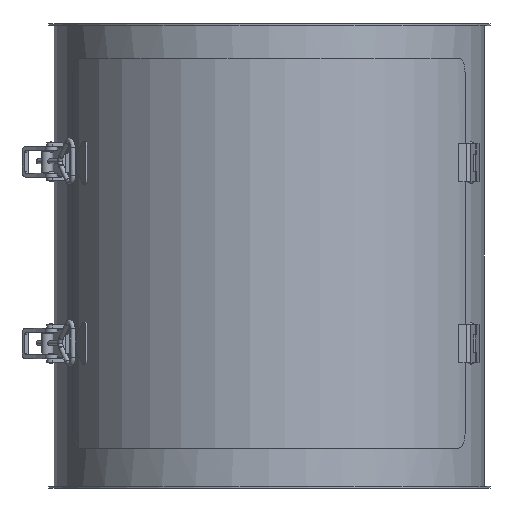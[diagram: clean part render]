
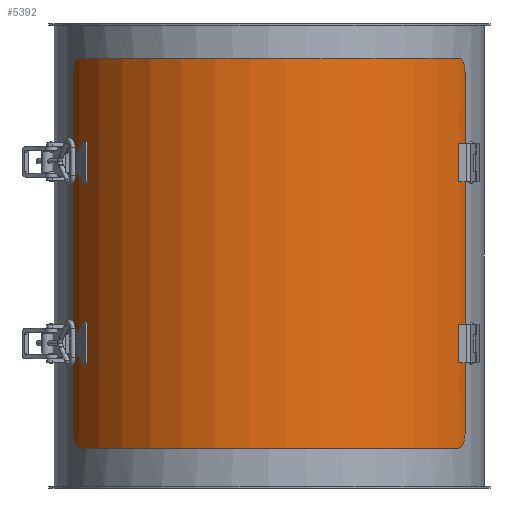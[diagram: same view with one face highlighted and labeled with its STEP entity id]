
A CAD part, front view. The second image highlights one B-rep face of the part: STEP entity #5392.
In plain terms, the highlighted cylindrical face has radius 228 mm (diameter 456 mm), a partial arc.
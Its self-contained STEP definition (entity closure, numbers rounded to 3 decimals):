
#5170=CARTESIAN_POINT('',(149.813,-2.475,372.398));
#5171=VERTEX_POINT('',#5170);
#5178=CARTESIAN_POINT('',(158.93,12.525,360.477));
#5179=VERTEX_POINT('',#5178);
#5180=CARTESIAN_POINT('',(149.813,-2.475,372.398));
#5181=CARTESIAN_POINT('',(149.813,-0.592,372.398));
#5182=CARTESIAN_POINT('',(150.052,1.417,372.107));
#5183=CARTESIAN_POINT('',(151.015,5.113,370.918));
#5184=CARTESIAN_POINT('',(151.739,6.8,370.018));
#5185=CARTESIAN_POINT('',(153.386,9.464,367.923));
#5186=CARTESIAN_POINT('',(154.421,10.619,366.588));
#5187=CARTESIAN_POINT('',(156.089,11.767,364.372));
#5188=CARTESIAN_POINT('',(156.665,12.056,363.598));
#5189=CARTESIAN_POINT('',(157.811,12.435,362.034));
#5190=CARTESIAN_POINT('',(158.382,12.525,361.244));
#5191=CARTESIAN_POINT('',(158.93,12.525,360.477));
#5192=B_SPLINE_CURVE_WITH_KNOTS('',3,(#5180,#5181,#5182,#5183,#5184,#5185,#5186,#5187,#5188,#5189,#5190,#5191),.UNSPECIFIED.,.F.,.U.,(4,2,2,2,2,4),(4.527,5.092,5.657,6.222,6.505,6.788),.UNSPECIFIED.);
#5193=EDGE_CURVE('',#5171,#5179,#5192,.T.);
#5210=CARTESIAN_POINT('',(-11.634,12.525,0.494));
#5211=VERTEX_POINT('',#5210);
#5212=CARTESIAN_POINT('',(-26.634,12.525,228.0));
#5213=DIRECTION('',(0.0,-1.0,0.0));
#5214=DIRECTION('',(0.0,0.0,-1.0));
#5215=AXIS2_PLACEMENT_3D('',#5212,#5213,#5214);
#5216=CIRCLE('',#5215,228.0);
#5217=EDGE_CURVE('',#5211,#5179,#5216,.T.);
#5237=CARTESIAN_POINT('',(-26.634,-397.475,228.0));
#5238=DIRECTION('',(0.,-1.0,0.0));
#5239=DIRECTION('',(0.774,0.0,0.633));
#5240=AXIS2_PLACEMENT_3D('',#5237,#5238,#5239);
#5241=CYLINDRICAL_SURFACE('',#5240,228.0);
#5242=ORIENTED_EDGE('',*,*,#5193,.F.);
#5243=CARTESIAN_POINT('',(149.813,-382.475,372.398));
#5244=VERTEX_POINT('',#5243);
#5245=CARTESIAN_POINT('',(149.813,-2.475,372.398));
#5246=DIRECTION('',(0.0,-1.0,0.0));
#5247=VECTOR('',#5246,380.);
#5248=LINE('',#5245,#5247);
#5249=EDGE_CURVE('',#5171,#5244,#5248,.T.);
#5250=ORIENTED_EDGE('',*,*,#5249,.T.);
#5251=CARTESIAN_POINT('',(158.93,-397.475,360.477));
#5252=VERTEX_POINT('',#5251);
#5253=CARTESIAN_POINT('',(158.93,-397.475,360.477));
#5254=CARTESIAN_POINT('',(158.382,-397.475,361.244));
#5255=CARTESIAN_POINT('',(157.811,-397.385,362.034));
#5256=CARTESIAN_POINT('',(156.665,-397.006,363.598));
#5257=CARTESIAN_POINT('',(156.089,-396.717,364.372));
#5258=CARTESIAN_POINT('',(154.421,-395.569,366.588));
#5259=CARTESIAN_POINT('',(153.386,-394.415,367.923));
#5260=CARTESIAN_POINT('',(151.739,-391.75,370.018));
#5261=CARTESIAN_POINT('',(151.015,-390.063,370.918));
#5262=CARTESIAN_POINT('',(150.052,-386.368,372.107));
#5263=CARTESIAN_POINT('',(149.813,-384.359,372.398));
#5264=CARTESIAN_POINT('',(149.813,-382.475,372.398));
#5265=B_SPLINE_CURVE_WITH_KNOTS('',3,(#5253,#5254,#5255,#5256,#5257,#5258,#5259,#5260,#5261,#5262,#5263,#5264),.UNSPECIFIED.,.F.,.U.,(4,2,2,2,2,4),(2.265,2.548,2.831,3.396,3.962,4.527),.UNSPECIFIED.);
#5266=EDGE_CURVE('',#5252,#5244,#5265,.T.);
#5267=ORIENTED_EDGE('',*,*,#5266,.F.);
#5268=CARTESIAN_POINT('',(-11.634,-397.475,0.494));
#5269=VERTEX_POINT('',#5268);
#5270=CARTESIAN_POINT('',(-26.634,-397.475,228.0));
#5271=DIRECTION('',(0.0,1.0,0.0));
#5272=DIRECTION('',(0.774,0.0,0.633));
#5273=AXIS2_PLACEMENT_3D('',#5270,#5271,#5272);
#5274=CIRCLE('',#5273,228.0);
#5275=EDGE_CURVE('',#5252,#5269,#5274,.T.);
#5276=ORIENTED_EDGE('',*,*,#5275,.T.);
#5277=CARTESIAN_POINT('',(-26.634,-382.475,0.0));
#5278=VERTEX_POINT('',#5277);
#5279=CARTESIAN_POINT('',(-26.634,-382.475,0.));
#5280=CARTESIAN_POINT('',(-26.634,-384.359,0.));
#5281=CARTESIAN_POINT('',(-26.257,-386.368,-0.001));
#5282=CARTESIAN_POINT('',(-24.726,-390.063,0.007));
#5283=CARTESIAN_POINT('',(-23.572,-391.75,0.017));
#5284=CARTESIAN_POINT('',(-20.907,-394.415,0.068));
#5285=CARTESIAN_POINT('',(-19.219,-395.569,0.113));
#5286=CARTESIAN_POINT('',(-16.447,-396.717,0.226));
#5287=CARTESIAN_POINT('',(-15.484,-397.006,0.271));
#5288=CARTESIAN_POINT('',(-13.547,-397.385,0.374));
#5289=CARTESIAN_POINT('',(-12.574,-397.475,0.432));
#5290=CARTESIAN_POINT('',(-11.634,-397.475,0.494));
#5291=B_SPLINE_CURVE_WITH_KNOTS('',3,(#5279,#5280,#5281,#5282,#5283,#5284,#5285,#5286,#5287,#5288,#5289,#5290),.UNSPECIFIED.,.F.,.U.,(4,2,2,2,2,4),(9.053,9.618,10.183,10.749,11.032,11.314),.UNSPECIFIED.);
#5292=EDGE_CURVE('',#5278,#5269,#5291,.T.);
#5293=ORIENTED_EDGE('',*,*,#5292,.F.);
#5294=CARTESIAN_POINT('',(-26.634,-2.475,0.0));
#5295=VERTEX_POINT('',#5294);
#5296=CARTESIAN_POINT('',(-26.634,-382.475,0.0));
#5297=DIRECTION('',(0.0,1.0,0.0));
#5298=VECTOR('',#5297,380.);
#5299=LINE('',#5296,#5298);
#5300=EDGE_CURVE('',#5278,#5295,#5299,.T.);
#5301=ORIENTED_EDGE('',*,*,#5300,.T.);
#5302=CARTESIAN_POINT('',(-11.634,12.525,0.494));
#5303=CARTESIAN_POINT('',(-12.574,12.525,0.432));
#5304=CARTESIAN_POINT('',(-13.547,12.435,0.374));
#5305=CARTESIAN_POINT('',(-15.484,12.056,0.271));
#5306=CARTESIAN_POINT('',(-16.447,11.767,0.226));
#5307=CARTESIAN_POINT('',(-19.219,10.619,0.113));
#5308=CARTESIAN_POINT('',(-20.907,9.464,0.068));
#5309=CARTESIAN_POINT('',(-23.572,6.8,0.017));
#5310=CARTESIAN_POINT('',(-24.726,5.113,0.007));
#5311=CARTESIAN_POINT('',(-26.257,1.417,-0.001));
#5312=CARTESIAN_POINT('',(-26.634,-0.592,0.));
#5313=CARTESIAN_POINT('',(-26.634,-2.475,0.));
#5314=B_SPLINE_CURVE_WITH_KNOTS('',3,(#5302,#5303,#5304,#5305,#5306,#5307,#5308,#5309,#5310,#5311,#5312,#5313),.UNSPECIFIED.,.F.,.U.,(4,2,2,2,2,4),(6.792,7.075,7.358,7.923,8.488,9.053),.UNSPECIFIED.);
#5315=EDGE_CURVE('',#5211,#5295,#5314,.T.);
#5316=ORIENTED_EDGE('',*,*,#5315,.F.);
#5317=ORIENTED_EDGE('',*,*,#5217,.T.);
#5318=EDGE_LOOP('',(#5242,#5250,#5267,#5276,#5293,#5301,#5316,#5317));
#5319=FACE_OUTER_BOUND('',#5318,.T.);
#5320=CARTESIAN_POINT('',(158.463,-77.475,361.128));
#5321=VERTEX_POINT('',#5320);
#5322=CARTESIAN_POINT('',(158.463,-117.475,361.128));
#5323=VERTEX_POINT('',#5322);
#5324=CARTESIAN_POINT('',(158.463,-77.475,361.128));
#5325=DIRECTION('',(0.0,-1.0,0.0));
#5326=VECTOR('',#5325,40.);
#5327=LINE('',#5324,#5326);
#5328=EDGE_CURVE('',#5321,#5323,#5327,.T.);
#5329=ORIENTED_EDGE('',*,*,#5328,.T.);
#5330=CARTESIAN_POINT('',(155.976,-117.475,364.52));
#5331=VERTEX_POINT('',#5330);
#5332=CARTESIAN_POINT('',(-26.634,-117.475,228.0));
#5333=DIRECTION('',(0.0,-1.0,0.0));
#5334=DIRECTION('',(0.774,0.0,0.633));
#5335=AXIS2_PLACEMENT_3D('',#5332,#5333,#5334);
#5336=CIRCLE('',#5335,228.0);
#5337=EDGE_CURVE('',#5323,#5331,#5336,.T.);
#5338=ORIENTED_EDGE('',*,*,#5337,.T.);
#5339=CARTESIAN_POINT('',(155.976,-77.475,364.52));
#5340=VERTEX_POINT('',#5339);
#5341=CARTESIAN_POINT('',(155.976,-117.475,364.52));
#5342=DIRECTION('',(0.0,1.0,0.0));
#5343=VECTOR('',#5342,40.);
#5344=LINE('',#5341,#5343);
#5345=EDGE_CURVE('',#5331,#5340,#5344,.T.);
#5346=ORIENTED_EDGE('',*,*,#5345,.T.);
#5347=CARTESIAN_POINT('',(-26.634,-77.475,228.0));
#5348=DIRECTION('',(0.0,1.0,0.0));
#5349=DIRECTION('',(0.774,0.0,0.633));
#5350=AXIS2_PLACEMENT_3D('',#5347,#5348,#5349);
#5351=CIRCLE('',#5350,228.0);
#5352=EDGE_CURVE('',#5340,#5321,#5351,.T.);
#5353=ORIENTED_EDGE('',*,*,#5352,.T.);
#5354=EDGE_LOOP('',(#5329,#5338,#5346,#5353));
#5355=FACE_BOUND('',#5354,.T.);
#5356=CARTESIAN_POINT('',(158.463,-267.475,361.128));
#5357=VERTEX_POINT('',#5356);
#5358=CARTESIAN_POINT('',(158.463,-307.475,361.128));
#5359=VERTEX_POINT('',#5358);
#5360=CARTESIAN_POINT('',(158.463,-267.475,361.128));
#5361=DIRECTION('',(0.0,-1.0,0.0));
#5362=VECTOR('',#5361,40.);
#5363=LINE('',#5360,#5362);
#5364=EDGE_CURVE('',#5357,#5359,#5363,.T.);
#5365=ORIENTED_EDGE('',*,*,#5364,.T.);
#5366=CARTESIAN_POINT('',(155.976,-307.475,364.52));
#5367=VERTEX_POINT('',#5366);
#5368=CARTESIAN_POINT('',(-26.634,-307.475,228.0));
#5369=DIRECTION('',(0.0,-1.0,0.0));
#5370=DIRECTION('',(0.774,0.0,0.633));
#5371=AXIS2_PLACEMENT_3D('',#5368,#5369,#5370);
#5372=CIRCLE('',#5371,228.0);
#5373=EDGE_CURVE('',#5359,#5367,#5372,.T.);
#5374=ORIENTED_EDGE('',*,*,#5373,.T.);
#5375=CARTESIAN_POINT('',(155.976,-267.475,364.52));
#5376=VERTEX_POINT('',#5375);
#5377=CARTESIAN_POINT('',(155.976,-307.475,364.52));
#5378=DIRECTION('',(0.0,1.0,0.0));
#5379=VECTOR('',#5378,40.);
#5380=LINE('',#5377,#5379);
#5381=EDGE_CURVE('',#5367,#5376,#5380,.T.);
#5382=ORIENTED_EDGE('',*,*,#5381,.T.);
#5383=CARTESIAN_POINT('',(-26.634,-267.475,228.0));
#5384=DIRECTION('',(0.0,1.0,0.0));
#5385=DIRECTION('',(0.774,0.0,0.633));
#5386=AXIS2_PLACEMENT_3D('',#5383,#5384,#5385);
#5387=CIRCLE('',#5386,228.0);
#5388=EDGE_CURVE('',#5376,#5357,#5387,.T.);
#5389=ORIENTED_EDGE('',*,*,#5388,.T.);
#5390=EDGE_LOOP('',(#5365,#5374,#5382,#5389));
#5391=FACE_BOUND('',#5390,.T.);
#5392=ADVANCED_FACE('',(#5319,#5355,#5391),#5241,.T.);
